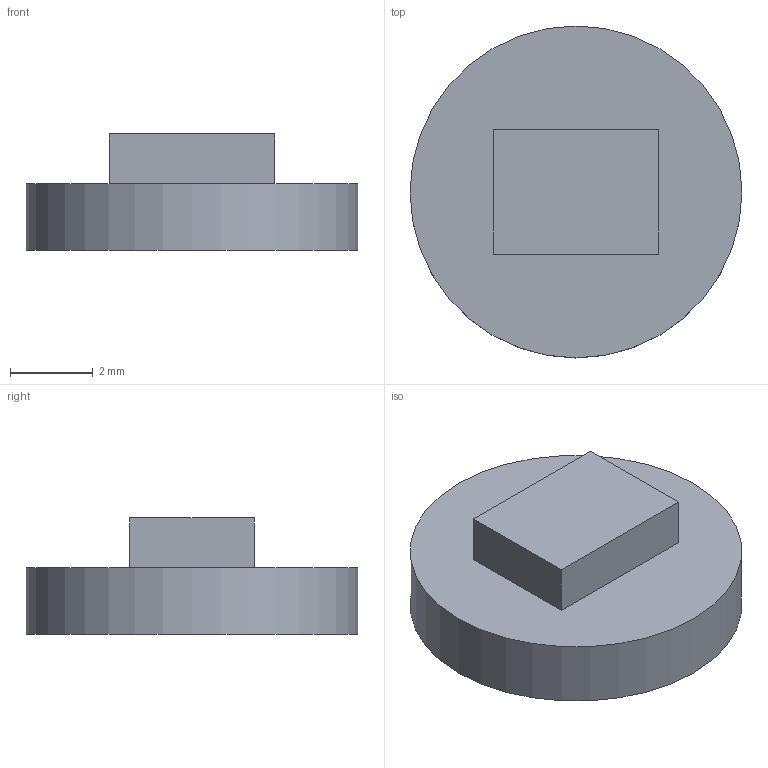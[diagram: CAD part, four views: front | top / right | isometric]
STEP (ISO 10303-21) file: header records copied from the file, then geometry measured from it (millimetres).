
FILE_DESCRIPTION(('Open CASCADE Model'),'2;1');
FILE_NAME('Open CASCADE Shape Model','2026-11-19T19:35:25',('Author'),( 'Open CASCADE'),'Open CASCADE STEP processor 8.0','build123d', 'Unknown');
FILE_SCHEMA(('AUTOMOTIVE_DESIGN { 1 0 10303 214 1 1 1 1 }'));
Length unit declared in the file: millimetre
Products named in the file (1): COMPOUND
Bounding box: 8 x 8 x 2.8 mm (x, y, z)
Volume: 94.8 mm3; surface area: 157.5 mm2
Topology: 1 solids, 1 shells, 8 faces, 15 edges, 10 vertices
Faces by surface type: plane 7, cylinder 1
Full cylindrical faces by diameter (mm): 8 x1
Entity records: 406 total; most frequent: DIRECTION 65, CARTESIAN_POINT 64, LINE 41, VECTOR 41, ORIENTED_EDGE 30, PCURVE 30, DEFINITIONAL_REPRESENTATION 30, EDGE_CURVE 15
